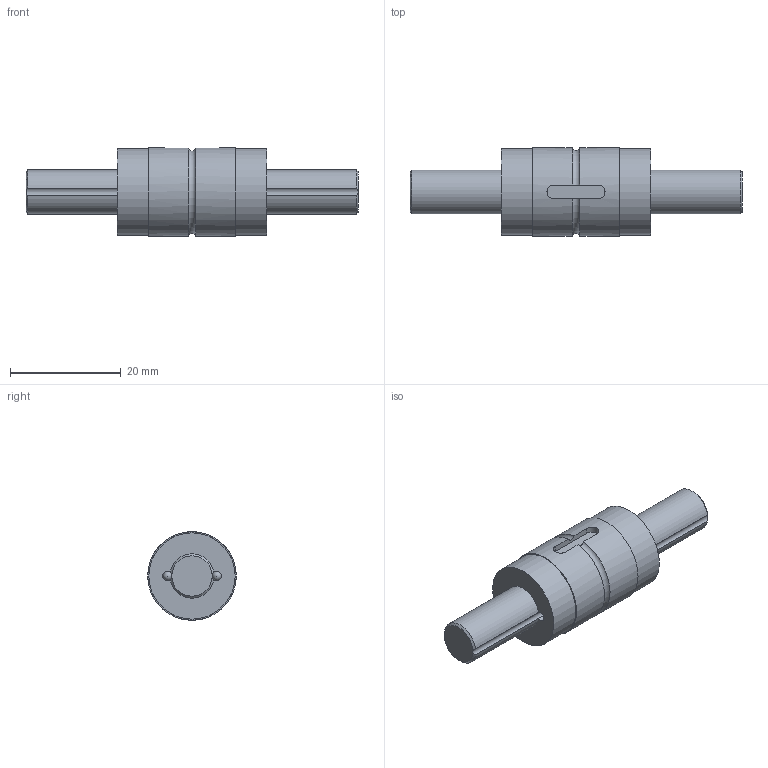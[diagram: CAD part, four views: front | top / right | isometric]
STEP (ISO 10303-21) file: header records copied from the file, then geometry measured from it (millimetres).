
FILE_DESCRIPTION(/* description */ ('Unknown'),/* implementation_level */ '2;1');
FILE_NAME(/* name */ 'TLT008-D-L60',/* time_stamp */ '2024-12-23T10:10:00+08:00',/* author */ ('Unknown'),/* organization */ ('Unknown'),/* preprocessor_version */ 'ST-DEVELOPER v18.102',/* originating_system */ 'Solid Edge',/* authorisation */ 'Unknown');
FILE_SCHEMA (('AUTOMOTIVE_DESIGN {1 0 10303 214 3 1 1}'));
Length unit declared in the file: millimetre
Products named in the file (3): TLT008-D-L60; TLT008-D-xxxx; TLT008
Assembly tree (2 placements, depth 2):
  TLT008-D-L60
    TLT008-D-xxxx
    TLT008
Bounding box: 60 x 16 x 16 mm (x, y, z)
Volume: 6794.6 mm3; surface area: 4210.1 mm2
Topology: 2 solids, 2 shells, 40 faces, 161 edges, 106 vertices
Faces by surface type: cylinder 15, sphere 10, plane 9, cone 4, torus 2
Full cylindrical faces by diameter (mm): 1.5 x1, 15.6 x2, 16 x2
Entity records: 1912 total; most frequent: CARTESIAN_POINT 645, ORIENTED_EDGE 270, DIRECTION 204, EDGE_CURVE 135, VERTEX_POINT 95, AXIS2_PLACEMENT_3D 83, EDGE_LOOP 76, FACE_BOUND 76
